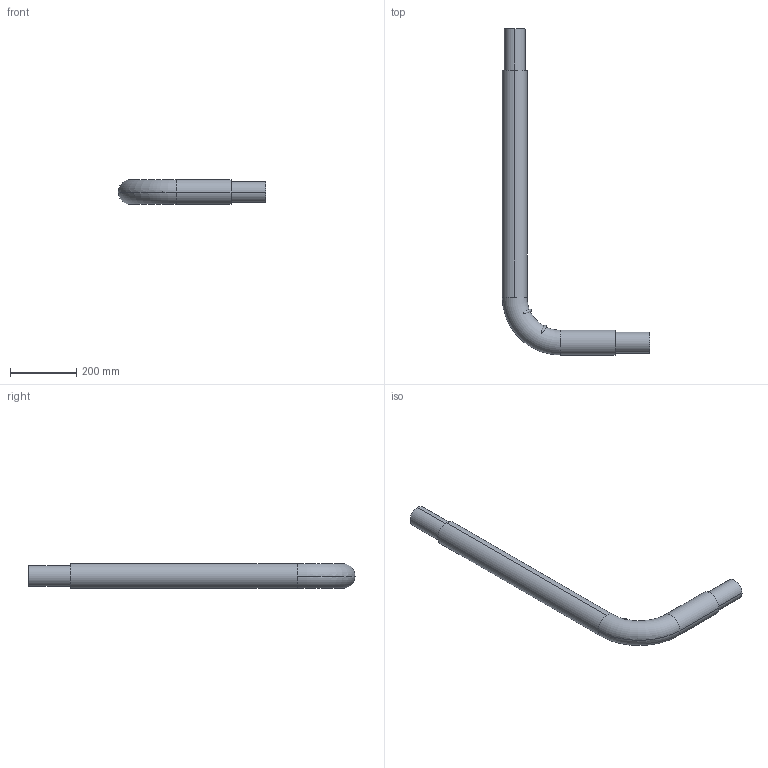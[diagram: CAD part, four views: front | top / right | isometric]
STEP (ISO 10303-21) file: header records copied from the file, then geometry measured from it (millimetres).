
FILE_DESCRIPTION (( 'STEP AP214' ), '1' );
FILE_NAME ('KP_3-75-63SCECXL.STEP', '2012-11-07T12:39:36', ( 'robinj' ), ( 'Microsoft' ), 'SwSTEP 2.0', 'SolidWorks 2012', '' );
FILE_SCHEMA (( 'AUTOMOTIVE_DESIGN' ));
Length unit declared in the file: millimetre
Products named in the file (1): KP_3-75-63SCECXL
Bounding box: 446 x 986 x 75 mm (x, y, z)
Volume: 2450205.6 mm3; surface area: 929006 mm2
Topology: 1 solids, 1 shells, 34 faces, 86 edges, 54 vertices
Faces by surface type: cylinder 16, torus 10, plane 8
Entity records: 1705 total; most frequent: CARTESIAN_POINT 600, DIRECTION 198, ORIENTED_EDGE 172, AXIS2_PLACEMENT_3D 91, EDGE_CURVE 86, CIRCLE 56, VERTEX_POINT 54, EDGE_LOOP 38
